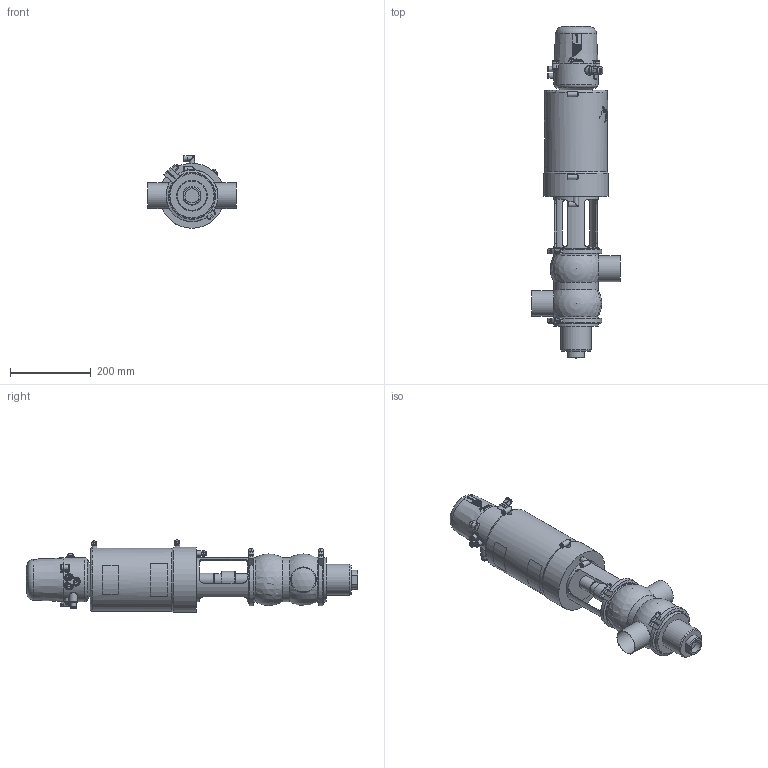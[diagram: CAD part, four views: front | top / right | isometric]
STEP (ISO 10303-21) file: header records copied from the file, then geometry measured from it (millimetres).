
FILE_DESCRIPTION (( 'STEP AP214' ), '1' );
FILE_NAME ('INNOVA P DC-180 W OD 2½ & C-TOP S_10.250.16.0019.STEP', '2024-08-08T12:23:28', ( '' ), ( '' ), 'SwSTEP 2.0', 'SolidWorks 2023', '' );
FILE_SCHEMA (( 'AUTOMOTIVE_DESIGN' ));
Length unit declared in the file: millimetre
Products named in the file (7): 10.426.15.0001_C-TOP S - 3 EV; INNOVA P DC-180 W OD 2½ & C-TOP S_10.250.16.0019; 10.251.15.0011_OD 2½"; 10.250.15.0002_Type P T2; 10.250.15.0001_OD 2½"; 10.240.15.0001_DN 065; 10.250.15.0003_DN 2½"
Assembly tree (7 placements, depth 2):
  INNOVA P DC-180 W OD 2½ & C-TOP S_10.250.16.0019
    10.250.15.0001_OD 2½"
    10.250.15.0002_Type P T2
    10.426.15.0001_C-TOP S - 3 EV
    10.251.15.0011_OD 2½"
    10.240.15.0001_DN 065  x2
    10.250.15.0003_DN 2½"
Bounding box: 220 x 821.8 x 179.5 mm (x, y, z)
Volume: 9317095.4 mm3; surface area: 566511.3 mm2
Topology: 7 solids, 7 shells, 1202 faces, 2890 edges, 1922 vertices
Faces by surface type: plane 412, cylinder 383, cone 204, bspline 162, torus 33, sphere 8
Full cylindrical faces by diameter (mm): 0.371 x17, 0.512 x16, 0.658 x16, 0.795 x16, 0.94 x15, 1.098 x15, 1.241 x13, 1.382 x13, 1.523 x11, 1.669 x10, 2.201 x1, 4.2 x2, 5 x1, 5.5 x2, 6 x4, 6.15 x3, 8 x5, 10 x1, 10.5 x3, 11 x4, 12.5 x9, 13 x6, 13.5 x2, 17 x3, 20 x2, 22 x2, 30.5 x2, 32 x1, 35 x1, 41 x1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
Entity records: 59941 total; most frequent: CARTESIAN_POINT 28652, ORIENTED_EDGE 4596, DIRECTION 3745, EDGE_CURVE 2298, VERTEX_POINT 1640, EDGE_LOOP 1624, AXIS2_PLACEMENT_3D 1542, FACE_OUTER_BOUND 1371
